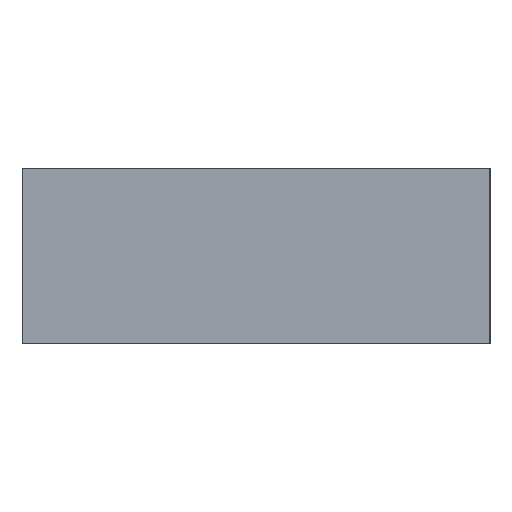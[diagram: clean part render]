
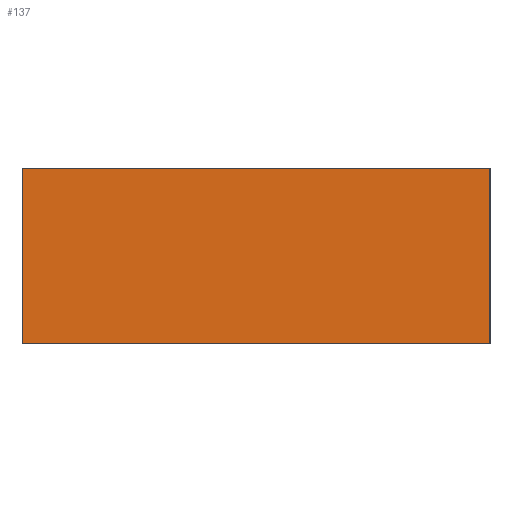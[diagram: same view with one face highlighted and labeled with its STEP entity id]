
A CAD part, left-side view. The second image highlights one B-rep face of the part: STEP entity #137.
In plain terms, the highlighted planar face has unit normal (-1, 0, 0).
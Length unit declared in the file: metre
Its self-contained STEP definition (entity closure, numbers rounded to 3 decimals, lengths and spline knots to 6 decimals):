
#22=ORIENTED_EDGE('',*,*,#54,.T.);
#23=ORIENTED_EDGE('',*,*,#55,.F.);
#24=ORIENTED_EDGE('',*,*,#56,.F.);
#25=ORIENTED_EDGE('',*,*,#51,.T.);
#51=EDGE_CURVE('',#68,#66,#79,.T.);
#54=EDGE_CURVE('',#66,#70,#82,.T.);
#55=EDGE_CURVE('',#71,#70,#83,.T.);
#56=EDGE_CURVE('',#68,#71,#84,.T.);
#66=VERTEX_POINT('',#210);
#68=VERTEX_POINT('',#213);
#70=VERTEX_POINT('',#219);
#71=VERTEX_POINT('',#221);
#79=LINE('',#212,#91);
#82=LINE('',#218,#94);
#83=LINE('',#220,#95);
#84=LINE('',#222,#96);
#91=VECTOR('',#174,1.);
#94=VECTOR('',#179,1.);
#95=VECTOR('',#180,1.);
#96=VECTOR('',#181,1.);
#103=EDGE_LOOP('',(#22,#23,#24,#25));
#117=FACE_BOUND('',#103,.T.);
#131=PLANE('',#158);
#137=ADVANCED_FACE('',(#117),#131,.F.);
#158=AXIS2_PLACEMENT_3D('',#217,#177,#178);
#174=DIRECTION('',(0.,0.,-1.));
#177=DIRECTION('',(1.,0.,0.));
#178=DIRECTION('',(0.,0.,-1.));
#179=DIRECTION('',(0.,-1.,0.));
#180=DIRECTION('',(0.,0.,-1.));
#181=DIRECTION('',(0.,-1.,0.));
#210=CARTESIAN_POINT('',(-0.290304,-0.202797,0.));
#212=CARTESIAN_POINT('',(-0.290304,-0.202797,0.003));
#213=CARTESIAN_POINT('',(-0.290304,-0.202797,0.003));
#217=CARTESIAN_POINT('',(-0.290304,-0.206797,0.003));
#218=CARTESIAN_POINT('',(-0.290304,-0.206797,0.));
#219=CARTESIAN_POINT('',(-0.290304,-0.210797,0.));
#220=CARTESIAN_POINT('',(-0.290304,-0.210797,0.003));
#221=CARTESIAN_POINT('',(-0.290304,-0.210797,0.003));
#222=CARTESIAN_POINT('',(-0.290304,-0.206797,0.003));
